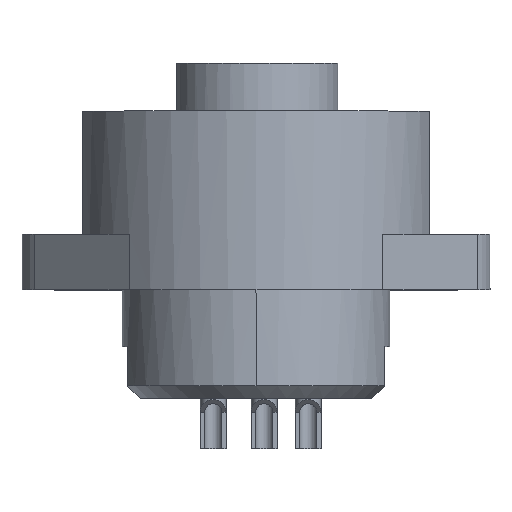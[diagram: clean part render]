
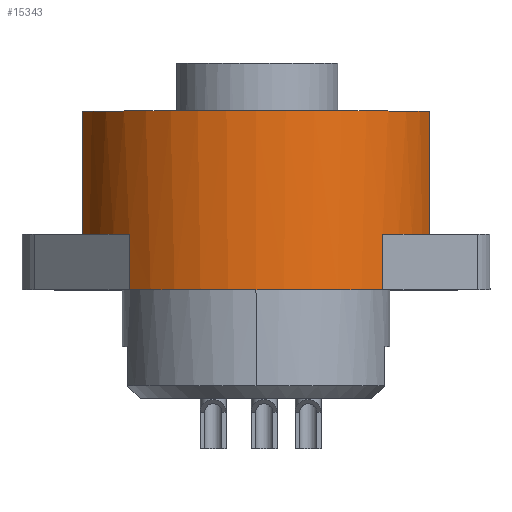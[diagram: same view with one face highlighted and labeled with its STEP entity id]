
A CAD part, top view. The second image highlights one B-rep face of the part: STEP entity #15343.
In plain terms, the highlighted cylindrical face has radius 14.5 mm (diameter 29 mm), a partial arc.
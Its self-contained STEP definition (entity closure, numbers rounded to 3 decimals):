
#339=CARTESIAN_POINT('',(0.,21.9,0.));
#340=DIRECTION('',(0.,-1.,0.));
#341=DIRECTION('',(0.971,0.,0.239));
#342=AXIS2_PLACEMENT_3D('',#339,#340,#341);
#687=CARTESIAN_POINT('',(0.,11.9,0.));
#688=DIRECTION('',(0.,1.,0.));
#689=DIRECTION('',(-0.971,0.,0.239));
#690=AXIS2_PLACEMENT_3D('',#687,#688,#689);
#763=DIRECTION('',(0.,-1.,0.));
#764=VECTOR('',#763,4.5);
#765=CARTESIAN_POINT('',(-10.29,11.9,10.216));
#766=LINE('',#765,#764);
#767=DIRECTION('',(0.,1.,0.));
#768=VECTOR('',#767,10.);
#769=CARTESIAN_POINT('',(-14.081,11.9,3.462));
#770=LINE('',#769,#768);
#771=DIRECTION('',(0.,1.,0.));
#772=VECTOR('',#771,10.);
#773=CARTESIAN_POINT('',(14.081,11.9,3.462));
#774=LINE('',#773,#772);
#810=CARTESIAN_POINT('',(0.,11.9,0.));
#811=DIRECTION('',(0.,1.,0.));
#812=DIRECTION('',(0.71,0.,0.705));
#813=AXIS2_PLACEMENT_3D('',#810,#811,#812);
#908=CARTESIAN_POINT('',(0.,7.4,0.));
#909=DIRECTION('',(0.,1.,0.));
#910=DIRECTION('',(-0.71,0.,0.705));
#911=AXIS2_PLACEMENT_3D('',#908,#909,#910);
#951=DIRECTION('',(0.,1.,0.));
#952=VECTOR('',#951,4.5);
#953=CARTESIAN_POINT('',(10.29,7.4,10.216));
#954=LINE('',#953,#952);
#13132=CARTESIAN_POINT('',(-14.081,11.9,3.462));
#13133=CARTESIAN_POINT('',(-10.29,11.9,10.216));
#13134=VERTEX_POINT('',#13132);
#13135=VERTEX_POINT('',#13133);
#13152=CARTESIAN_POINT('',(10.29,11.9,10.216));
#13153=VERTEX_POINT('',#13152);
#13154=CARTESIAN_POINT('',(14.081,11.9,3.462));
#13155=VERTEX_POINT('',#13154);
#13186=CARTESIAN_POINT('',(-10.29,7.4,10.216));
#13187=VERTEX_POINT('',#13186);
#13188=CARTESIAN_POINT('',(10.29,7.4,10.216));
#13189=VERTEX_POINT('',#13188);
#13198=CARTESIAN_POINT('',(-14.081,21.9,3.462));
#13200=VERTEX_POINT('',#13198);
#13226=CARTESIAN_POINT('',(14.081,21.9,3.462));
#13227=VERTEX_POINT('',#13226);
#15324=CARTESIAN_POINT('',(0.,7.11,0.));
#15325=DIRECTION('',(0.,1.,0.));
#15326=DIRECTION('',(1.,0.,0.));
#15327=AXIS2_PLACEMENT_3D('',#15324,#15325,#15326);
#15328=CYLINDRICAL_SURFACE('',#15327,14.5);
#15329=ORIENTED_EDGE('',*,*,#15136,.T.);
#15330=ORIENTED_EDGE('',*,*,#14965,.F.);
#15332=ORIENTED_EDGE('',*,*,#15331,.F.);
#15334=ORIENTED_EDGE('',*,*,#15333,.F.);
#15336=ORIENTED_EDGE('',*,*,#15335,.F.);
#15338=ORIENTED_EDGE('',*,*,#15337,.F.);
#15339=ORIENTED_EDGE('',*,*,#15316,.F.);
#15340=ORIENTED_EDGE('',*,*,#15176,.F.);
#15341=EDGE_LOOP('',(#15329,#15330,#15332,#15334,#15336,#15338,#15339,#15340));
#15342=FACE_OUTER_BOUND('',#15341,.F.);
#343=CIRCLE('',#342,14.5);
#691=CIRCLE('',#690,14.5);
#814=CIRCLE('',#813,14.5);
#912=CIRCLE('',#911,14.5);
#14965=EDGE_CURVE('',#13227,#13200,#343,.T.);
#15136=EDGE_CURVE('',#13134,#13200,#770,.T.);
#15176=EDGE_CURVE('',#13134,#13135,#691,.T.);
#15316=EDGE_CURVE('',#13135,#13187,#766,.T.);
#15331=EDGE_CURVE('',#13155,#13227,#774,.T.);
#15333=EDGE_CURVE('',#13153,#13155,#814,.T.);
#15335=EDGE_CURVE('',#13189,#13153,#954,.T.);
#15337=EDGE_CURVE('',#13187,#13189,#912,.T.);
#15343=ADVANCED_FACE('',(#15342),#15328,.T.);
